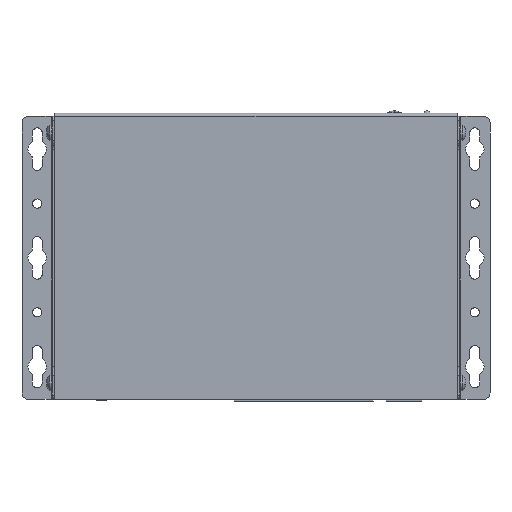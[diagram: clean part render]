
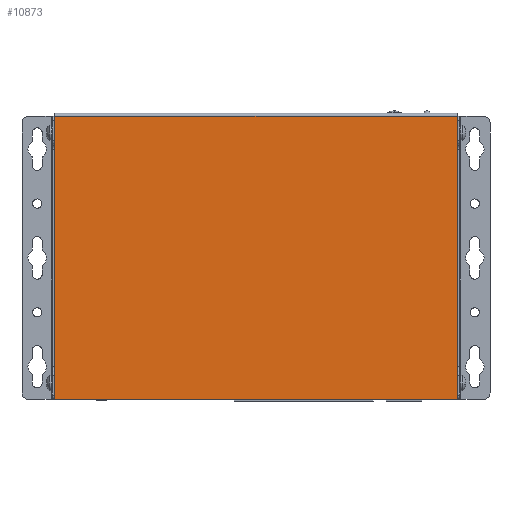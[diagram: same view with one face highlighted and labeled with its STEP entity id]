
A CAD part, front view. The second image highlights one B-rep face of the part: STEP entity #10873.
In plain terms, the highlighted planar face has unit normal (0, -1, 0).
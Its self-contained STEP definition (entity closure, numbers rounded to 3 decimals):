
#2219 = VERTEX_POINT ( 'NONE', #23193 ) ;
#3204 = DIRECTION ( 'NONE',  ( 0., 0., 1. ) ) ;
#4288 = AXIS2_PLACEMENT_3D ( 'NONE', #27205, #42058, #41423 ) ;
#5235 = ORIENTED_EDGE ( 'NONE', *, *, #56649, .T. ) ;
#7835 = LINE ( 'NONE', #63650, #45512 ) ;
#7947 = VECTOR ( 'NONE', #23351, 1000. ) ;
#8387 = CARTESIAN_POINT ( 'NONE',  ( -92.5, 0., -65.75 ) ) ;
#8490 = CARTESIAN_POINT ( 'NONE',  ( 0., 0., 64.35 ) ) ;
#10826 = VERTEX_POINT ( 'NONE', #15955 ) ;
#10873 = ADVANCED_FACE ( 'NONE', ( #37195 ), #56610, .F. ) ;
#13344 = EDGE_CURVE ( 'NONE', #58093, #10826, #28386, .T. ) ;
#15955 = CARTESIAN_POINT ( 'NONE',  ( -92.5, 0., 64.35 ) ) ;
#16186 = ORIENTED_EDGE ( 'NONE', *, *, #13344, .F. ) ;
#16743 = DIRECTION ( 'NONE',  ( -1., 0., 0. ) ) ;
#19837 = EDGE_LOOP ( 'NONE', ( #45922, #5235, #16186, #37785 ) ) ;
#23193 = CARTESIAN_POINT ( 'NONE',  ( 92.5, 0., -65.75 ) ) ;
#23351 = DIRECTION ( 'NONE',  ( -1., 0., 0. ) ) ;
#24322 = VERTEX_POINT ( 'NONE', #38832 ) ;
#27205 = CARTESIAN_POINT ( 'NONE',  ( 0., 0., 0. ) ) ;
#28386 = LINE ( 'NONE', #8387, #56348 ) ;
#37195 = FACE_OUTER_BOUND ( 'NONE', #19837, .T. ) ;
#37785 = ORIENTED_EDGE ( 'NONE', *, *, #60568, .F. ) ;
#38832 = CARTESIAN_POINT ( 'NONE',  ( 92.5, 0., 64.35 ) ) ;
#41423 = DIRECTION ( 'NONE',  ( 0., 0., 1. ) ) ;
#42058 = DIRECTION ( 'NONE',  ( 0., 1., 0. ) ) ;
#44933 = DIRECTION ( 'NONE',  ( 0., 0., -1. ) ) ;
#45512 = VECTOR ( 'NONE', #44933, 1000. ) ;
#45922 = ORIENTED_EDGE ( 'NONE', *, *, #48961, .F. ) ;
#48961 = EDGE_CURVE ( 'NONE', #24322, #2219, #7835, .T. ) ;
#50955 = LINE ( 'NONE', #60962, #56810 ) ;
#52330 = CARTESIAN_POINT ( 'NONE',  ( -92.5, 0., -65.75 ) ) ;
#52714 = LINE ( 'NONE', #8490, #7947 ) ;
#56348 = VECTOR ( 'NONE', #3204, 1000. ) ;
#56610 = PLANE ( 'NONE',  #4288 ) ;
#56649 = EDGE_CURVE ( 'NONE', #24322, #10826, #52714, .T. ) ;
#56810 = VECTOR ( 'NONE', #16743, 1000. ) ;
#58093 = VERTEX_POINT ( 'NONE', #52330 ) ;
#60568 = EDGE_CURVE ( 'NONE', #2219, #58093, #50955, .T. ) ;
#60962 = CARTESIAN_POINT ( 'NONE',  ( -92.5, 0., -65.75 ) ) ;
#63650 = CARTESIAN_POINT ( 'NONE',  ( 92.5, 0., -65.75 ) ) ;
